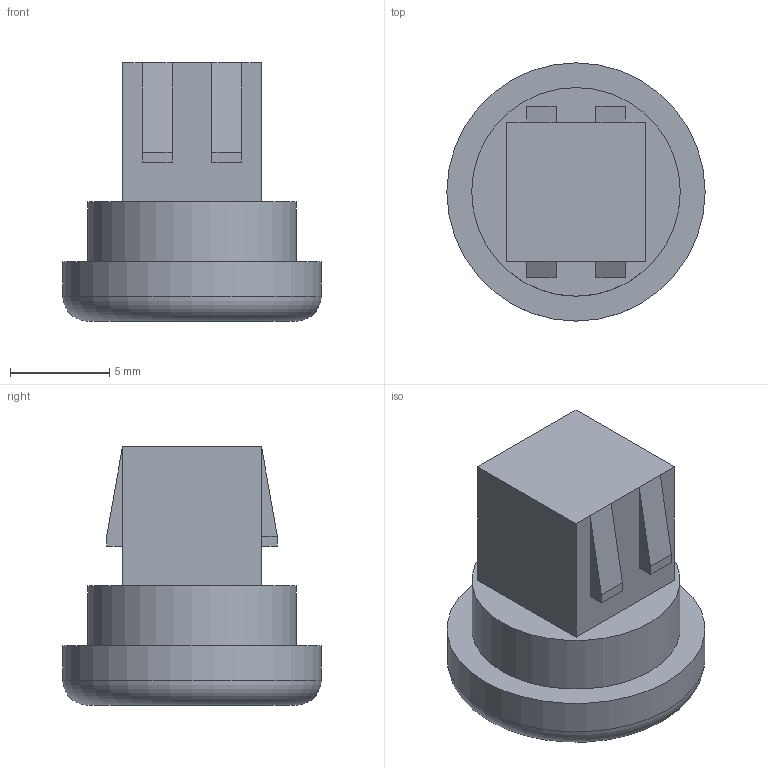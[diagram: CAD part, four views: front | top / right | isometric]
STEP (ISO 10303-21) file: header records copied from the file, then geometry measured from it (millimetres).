
FILE_DESCRIPTION(/* description */ (''),/* implementation_level */ '2;1');
FILE_NAME(/* name */ 'Parcel Shelf Plug.step',/* time_stamp */ '2026-03-08T22:55:00Z',/* author */ (''),/* organization */ (''),/* preprocessor_version */ 'ST-DEVELOPER v20.1',/* originating_system */ 'Autodesk Translation Framework v14.24.0.0',/* authorisation */ '');
FILE_SCHEMA (('AUTOMOTIVE_DESIGN { 1 0 10303 214 3 1 1 }','TECHNICAL_DATA_PACKAGING','MODEL_BASED_INTEGRATED_MANUFACTURING_SCHEMA','PROCESS_PLANNING_SCHEMA'));
Length unit declared in the file: millimetre
Products named in the file (1): (Unsaved)
Bounding box: 13 x 13 x 13 mm (x, y, z)
Volume: 940.6 mm3; surface area: 709.3 mm2
Topology: 1 solids, 1 shells, 39 faces, 87 edges, 53 vertices
Faces by surface type: plane 34, cylinder 3, torus 2
Full cylindrical faces by diameter (mm): 7 x1, 10.5 x1, 13 x1
Entity records: 1084 total; most frequent: CARTESIAN_POINT 180, DIRECTION 177, ORIENTED_EDGE 174, EDGE_CURVE 87, LINE 77, VECTOR 77, VERTEX_POINT 53, AXIS2_PLACEMENT_3D 50
